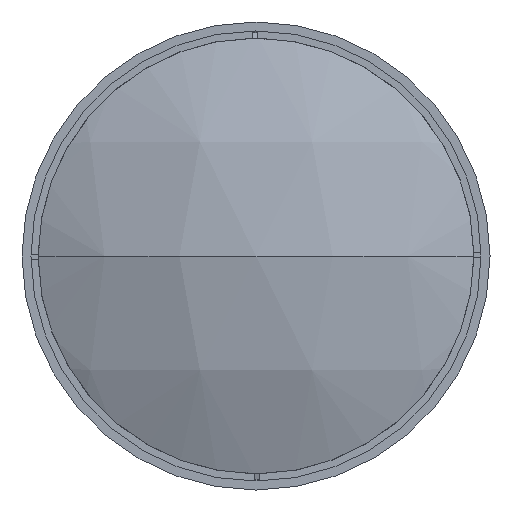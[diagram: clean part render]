
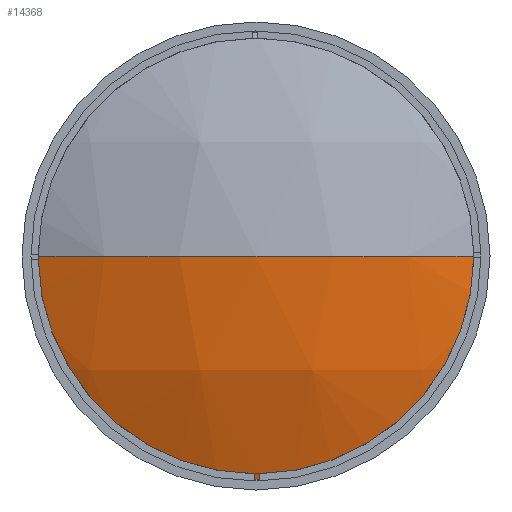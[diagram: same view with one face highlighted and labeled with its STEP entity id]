
A CAD part, left-side view. The second image highlights one B-rep face of the part: STEP entity #14368.
In plain terms, the highlighted spherical face has radius 144.52 mm.
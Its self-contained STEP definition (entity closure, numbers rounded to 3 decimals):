
#441 = AXIS2_PLACEMENT_3D ( 'NONE', #6895, #24369, #9416 ) ;
#2699 = CIRCLE ( 'NONE', #441, 144.52 ) ;
#4936 = DIRECTION ( 'NONE',  ( 0., 0., 1. ) ) ;
#5821 = CIRCLE ( 'NONE', #14522, 62. ) ;
#6619 = CARTESIAN_POINT ( 'NONE',  ( 144.52, 0., 0. ) ) ;
#6895 = CARTESIAN_POINT ( 'NONE',  ( 144.52, 0., 0. ) ) ;
#7356 = ORIENTED_EDGE ( 'NONE', *, *, #31582, .T. ) ;
#9416 = DIRECTION ( 'NONE',  ( 0., 1., 0. ) ) ;
#9793 = VERTEX_POINT ( 'NONE', #12266 ) ;
#10288 = EDGE_LOOP ( 'NONE', ( #21164, #7356, #18527 ) ) ;
#10961 = CARTESIAN_POINT ( 'NONE',  ( 0., 0., 0. ) ) ;
#10996 = VERTEX_POINT ( 'NONE', #14866 ) ;
#11857 = AXIS2_PLACEMENT_3D ( 'NONE', #19986, #4936, #22473 ) ;
#12266 = CARTESIAN_POINT ( 'NONE',  ( 13.975, -62., 0. ) ) ;
#12554 = DIRECTION ( 'NONE',  ( -1., 0., 0. ) ) ;
#12787 = SPHERICAL_SURFACE ( 'NONE', #14402, 144.52 ) ;
#13452 = VERTEX_POINT ( 'NONE', #10961 ) ;
#14368 = ADVANCED_FACE ( 'NONE', ( #18667 ), #12787, .T. ) ;
#14402 = AXIS2_PLACEMENT_3D ( 'NONE', #6619, #19128, #24104 ) ;
#14522 = AXIS2_PLACEMENT_3D ( 'NONE', #27280, #12554, #29638 ) ;
#14866 = CARTESIAN_POINT ( 'NONE',  ( 13.975, 62., 0. ) ) ;
#18527 = ORIENTED_EDGE ( 'NONE', *, *, #20985, .F. ) ;
#18667 = FACE_OUTER_BOUND ( 'NONE', #10288, .T. ) ;
#19128 = DIRECTION ( 'NONE',  ( 0., 0., -1. ) ) ;
#19986 = CARTESIAN_POINT ( 'NONE',  ( 144.52, 0., 0. ) ) ;
#20104 = CIRCLE ( 'NONE', #11857, 144.52 ) ;
#20985 = EDGE_CURVE ( 'NONE', #10996, #13452, #20104, .T. ) ;
#21164 = ORIENTED_EDGE ( 'NONE', *, *, #31183, .T. ) ;
#22473 = DIRECTION ( 'NONE',  ( 1., 0., 0. ) ) ;
#24104 = DIRECTION ( 'NONE',  ( 0., 1., 0. ) ) ;
#24369 = DIRECTION ( 'NONE',  ( 0., 0., -1. ) ) ;
#27280 = CARTESIAN_POINT ( 'NONE',  ( 13.975, 0., 0. ) ) ;
#29638 = DIRECTION ( 'NONE',  ( 0., 0., 1. ) ) ;
#31183 = EDGE_CURVE ( 'NONE', #10996, #9793, #5821, .T. ) ;
#31582 = EDGE_CURVE ( 'NONE', #9793, #13452, #2699, .T. ) ;
